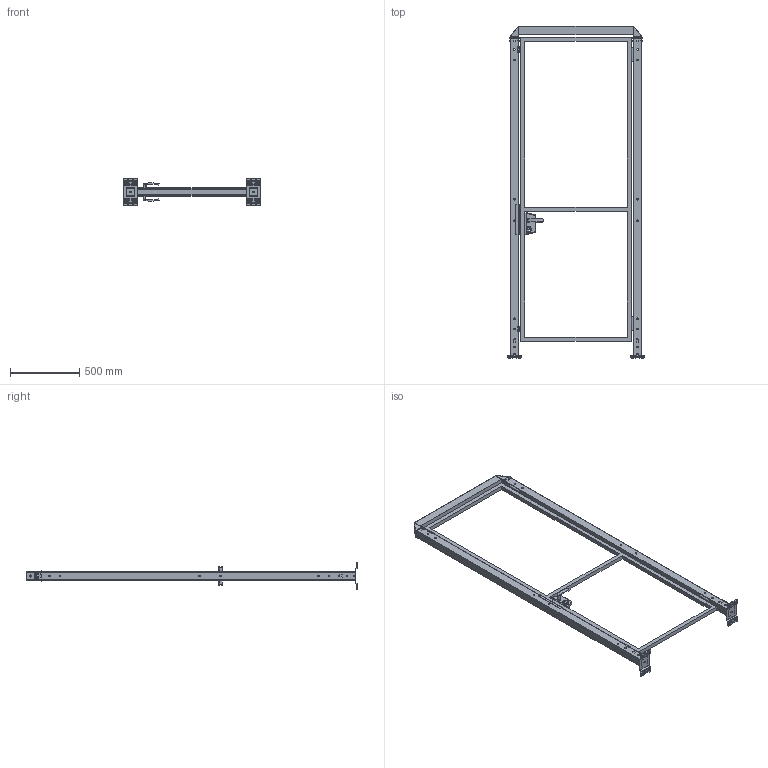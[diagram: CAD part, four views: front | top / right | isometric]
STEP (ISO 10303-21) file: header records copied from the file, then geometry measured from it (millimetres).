
FILE_DESCRIPTION(('STEP AP242'),'1');
FILE_NAME('vfda_bscgd03_08002320.stp','2024-08-14T10:39:51',('TraceParts'),('TraceParts S.A.'),'Spatial InterOp 3D',' ',' ');
FILE_SCHEMA(('AP242_MANAGED_MODEL_BASED_3D_ENGINEERING_MIM_LF {1 0 10303 442 1 1 4}'));
Length unit declared in the file: millimetre
Products named in the file (1): vfda_bscgd03_08002320_1
Bounding box: 990 x 2401 x 192 mm (x, y, z)
Volume: 8710087.8 mm3; surface area: 3652225 mm2
Topology: 13 solids, 13 shells, 1633 faces, 4343 edges, 2774 vertices
Faces by surface type: plane 807, cylinder 554, bspline 198, cone 46, torus 28
Entity records: 68206 total; most frequent: CARTESIAN_POINT 14828, ORIENTED_EDGE 8686, DIRECTION 7987, EDGE_CURVE 4343, VERTEX_POINT 2774, AXIS2_PLACEMENT_3D 2674, LINE 2639, VECTOR 2639
